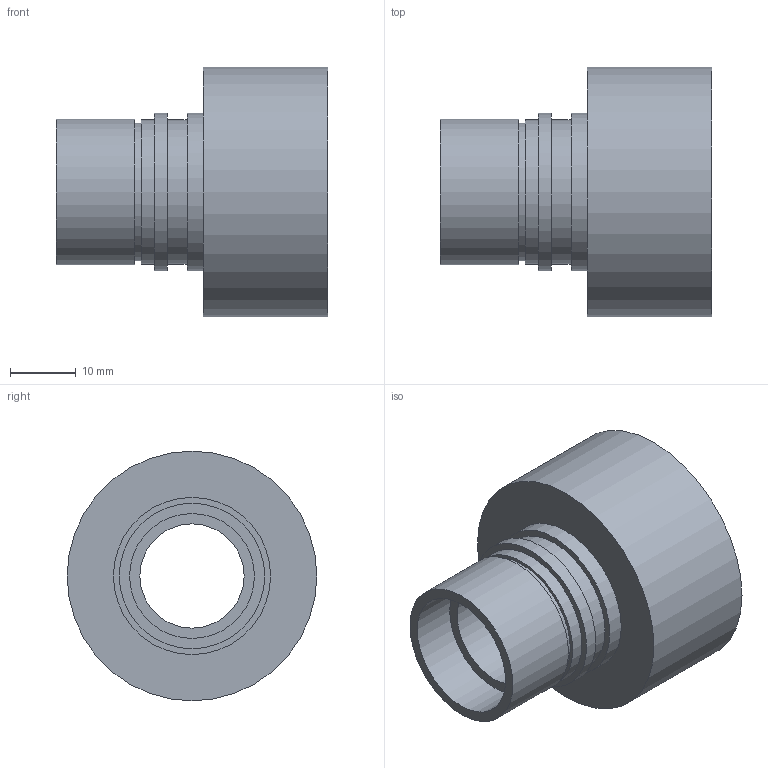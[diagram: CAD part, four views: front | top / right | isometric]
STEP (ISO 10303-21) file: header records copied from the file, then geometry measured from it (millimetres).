
FILE_DESCRIPTION (( 'STEP AP203' ), '1' );
FILE_NAME ('70-19.05R38.1-PH.STEP', '2013-08-29T08:24:37', ( '' ), ( '' ), 'SwSTEP 2.0', 'SolidWorks 2012', '' );
FILE_SCHEMA (( 'CONFIG_CONTROL_DESIGN' ));
Length unit declared in the file: millimetre
Products named in the file (3): 70-19.05R38.1-PH; 70-19.05T; 仩R38.1PH(25.4 31.8埲奜梡)
Assembly tree (2 placements, depth 2):
  70-19.05R38.1-PH
    仩R38.1PH(25.4 31.8埲奜梡)
    70-19.05T
Bounding box: 41.5 x 38.1 x 38.1 mm (x, y, z)
Volume: 13691.8 mm3; surface area: 9054.7 mm2
Topology: 2 solids, 2 shells, 23 faces, 36 edges, 23 vertices
Faces by surface type: cylinder 11, plane 10, cone 1, torus 1
Full cylindrical faces by diameter (mm): 15.9 x2, 19.05 x1, 21 x1, 22 x2, 22.2 x1, 24 x2, 33.7 x1, 38.1 x1
Entity records: 777 total; most frequent: DIRECTION 102, CARTESIAN_POINT 74, AXIS2_PLACEMENT_3D 51, EDGE_LOOP 46, ORIENTED_EDGE 46, FACE_OUTER_BOUND 35, PERSON_AND_ORGANIZATION 26, VERTEX_POINT 23
